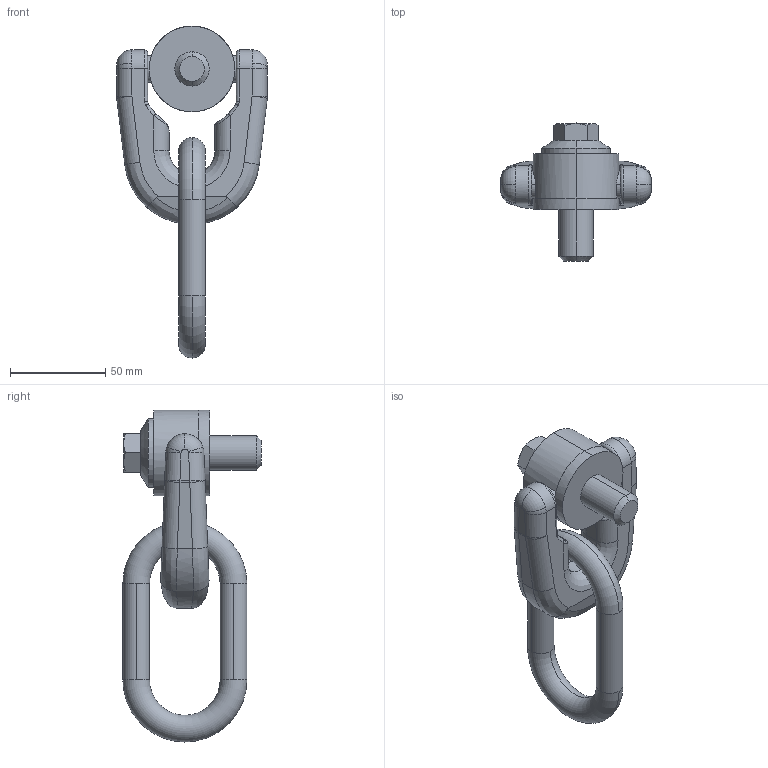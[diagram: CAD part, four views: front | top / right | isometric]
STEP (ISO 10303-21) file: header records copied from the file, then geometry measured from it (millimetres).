
FILE_DESCRIPTION (( 'STEP AP203' ), '1' );
FILE_NAME ('63150.W0018.step', '2013-12-13T11:51:41', ( 'User' ), ( '' ), 'SwSTEP 2.0', 'SolidWorks 2009', '' );
FILE_SCHEMA (( 'CONFIG_CONTROL_DESIGN' ));
Length unit declared in the file: millimetre
Products named in the file (4): Part2B; Part3_63150.W0018; 63150.W0018; Part1_63150.W0018
Assembly tree (3 placements, depth 2):
  63150.W0018
    Part1_63150.W0018
    Part3_63150.W0018
    Part2B
Bounding box: 79 x 72.5 x 174 mm (x, y, z)
Volume: 180050.2 mm3; surface area: 38853.8 mm2
Topology: 3 solids, 3 shells, 133 faces, 317 edges, 190 vertices
Faces by surface type: cylinder 41, plane 33, bspline 33, torus 12, cone 10, sphere 4
Entity records: 5940 total; most frequent: CARTESIAN_POINT 2688, ORIENTED_EDGE 630, DIRECTION 574, EDGE_CURVE 315, AXIS2_PLACEMENT_3D 233, VERTEX_POINT 190, EDGE_LOOP 139, ADVANCED_FACE 133
